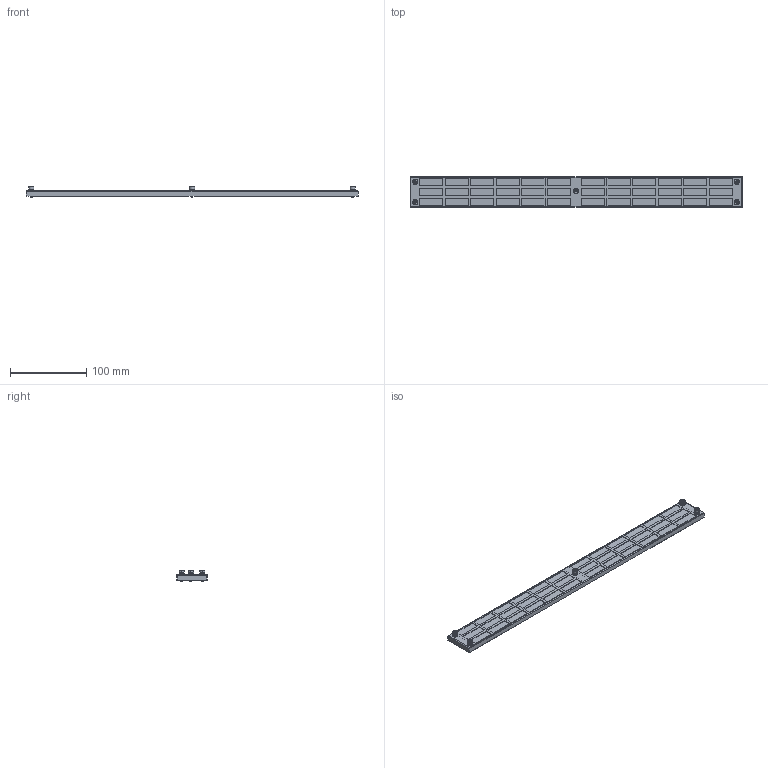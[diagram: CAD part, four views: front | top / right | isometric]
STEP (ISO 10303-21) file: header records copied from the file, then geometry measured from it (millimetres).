
FILE_DESCRIPTION((''),'2;1');
FILE_NAME('123400001977A_AIR-FILTER-BRK-03_ASM','2019-06-19T',('george_hsu'),(''),'PRO/ENGINEER BY PARAMETRIC TECHNOLOGY CORPORATION, 2012480','PRO/ENGINEER BY PARAMETRIC TECHNOLOGY CORPORATION, 2012480','');
FILE_SCHEMA(('AUTOMOTIVE_DESIGN { 1 0 10303 214 1 1 1 1 }'));
Length unit declared in the file: millimetre
Products named in the file (7): AIR-FILTER-BRACKET-03; SCREW-0133; SLEEVE; SPRING-P; 05-TB-0133-E-PRESS_ASM; AIR-FILTER-C1-03; 123400001977A_AIR-FILTER-BRK-03_ASM
Assembly tree (10 placements, depth 3):
  123400001977A_AIR-FILTER-BRK-03_ASM
    AIR-FILTER-BRACKET-03
    05-TB-0133-E-PRESS_ASM  x5
      SCREW-0133
      SLEEVE
      SPRING-P
    AIR-FILTER-C1-03
Bounding box: 436 x 40.1 x 15.2 mm (x, y, z)
Volume: 107488.2 mm3; surface area: 67603.5 mm2
Topology: 18 solids, 18 shells, 1523 faces, 4304 edges, 2847 vertices
Faces by surface type: plane 920, cylinder 483, bspline 80, cone 40
Entity records: 21767 total; most frequent: CARTESIAN_POINT 6805, ORIENTED_EDGE 2640, DIRECTION 2390, EDGE_CURVE 1320, VECTOR 1054, LINE 1054, VERTEX_POINT 867, AXIS2_PLACEMENT_3D 668
